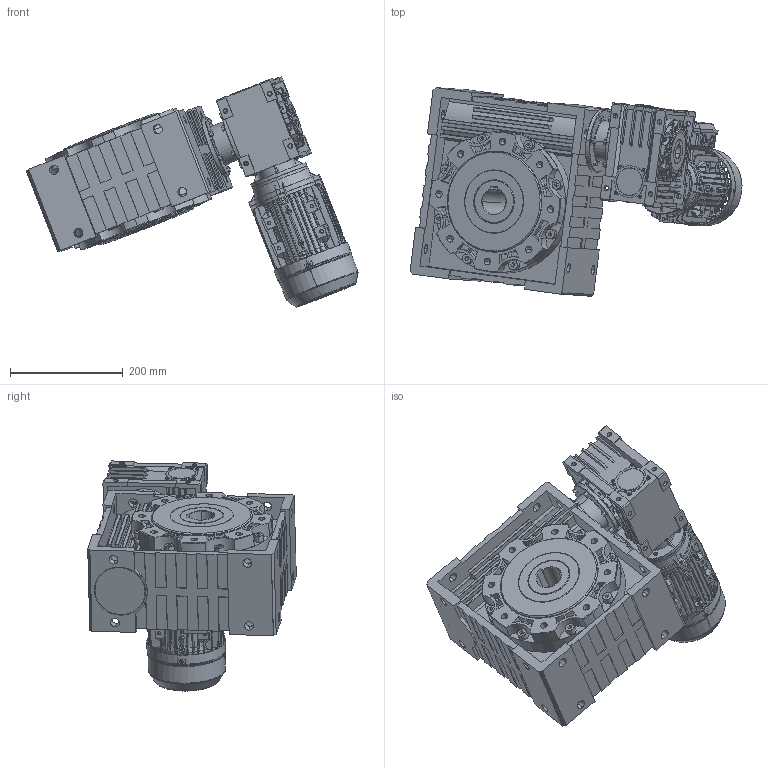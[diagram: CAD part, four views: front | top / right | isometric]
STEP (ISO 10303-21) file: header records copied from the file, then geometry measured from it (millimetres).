
FILE_DESCRIPTION (( 'STEP AP203' ), '1' );
FILE_NAME ('CMRV 130-063-MX-71.STEP', '2019-08-12T12:29:30', ( '' ), ( '' ), 'SwSTEP 2.0', 'SolidWorks 2012', '' );
FILE_SCHEMA (( 'CONFIG_CONTROL_DESIGN' ));
Products named in the file (18): Klemmenkastenunterteil_MS71; B14-Flansch_MS71; B-Lagerschild_MS71; Gehäuse_MS71L; CMRV 130-063-71B14; FCNDK 063火耳; 9; 8; 7; 5; 4; 3; 2_1; CMRV 130-063-MX-71; MX71_B14; Lüfterhaube_MS71; L黤terfl黦el_MS71; Klemmkastenoberteil_MS71
Assembly tree (17 placements, depth 3):
  CMRV 130-063-MX-71
    CMRV 130-063-71B14
      2_1
      3
      4
      5
      7
      8
      9
      FCNDK 063火耳
    MX71_B14
      Gehäuse_MS71L
      B-Lagerschild_MS71
      B14-Flansch_MS71
      Klemmenkastenunterteil_MS71
      Klemmkastenoberteil_MS71
      L黤terfl黦el_MS71
      Lüfterhaube_MS71
Bounding box: 590.04 x 370.65 x 408.96 mm (x, y, z)
Volume: 16057164.8 mm3; surface area: 1727268.8 mm2
Topology: 15 solids, 16 shells, 4043 faces, 10860 edges, 7134 vertices
Faces by surface type: plane 2270, cylinder 1350, cone 269, bspline 150, torus 4
Entity records: 145489 total; most frequent: CARTESIAN_POINT 42806, ORIENTED_EDGE 21700, DIRECTION 19933, EDGE_CURVE 10850, VERTEX_POINT 7134, AXIS2_PLACEMENT_3D 6654, VECTOR 6625, LINE 6625
